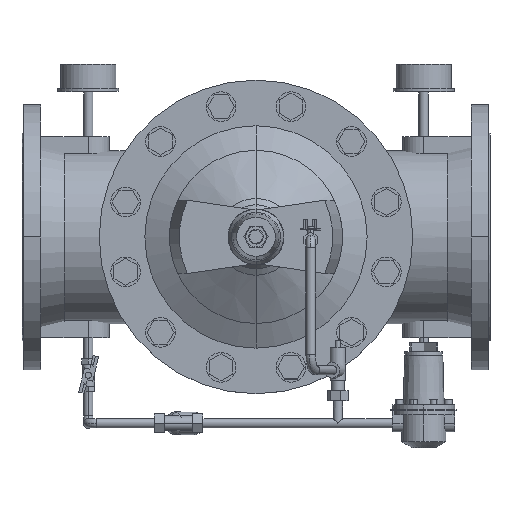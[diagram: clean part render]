
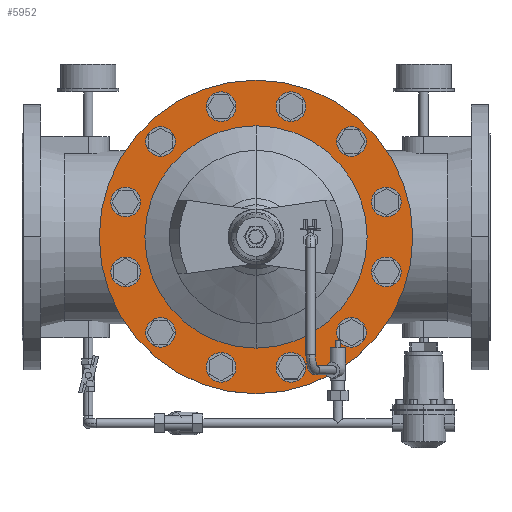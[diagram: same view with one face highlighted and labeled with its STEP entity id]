
A CAD part, top view. The second image highlights one B-rep face of the part: STEP entity #5952.
In plain terms, the highlighted planar face has unit normal (0, 0, 1).
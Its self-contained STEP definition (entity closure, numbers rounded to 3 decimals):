
#5952=ADVANCED_FACE('',(#10755,#10756),#10757,.T.);
#10755=FACE_BOUND('',#15854,.T.);
#10756=FACE_OUTER_BOUND('',#15855,.T.);
#10757=PLANE('',#15856);
#15854=EDGE_LOOP('',(#26587,#26588));
#15855=EDGE_LOOP('',(#26589,#26590));
#15856=AXIS2_PLACEMENT_3D('',#26591,#26592,#26593);
#26587=ORIENTED_EDGE('',*,*,#28880,.F.);
#26588=ORIENTED_EDGE('',*,*,#29024,.F.);
#26589=ORIENTED_EDGE('',*,*,#28527,.T.);
#26590=ORIENTED_EDGE('',*,*,#29813,.T.);
#26591=CARTESIAN_POINT('',(300.0,171.75,181.0));
#26592=DIRECTION('',(0.,0.,1.0));
#26593=DIRECTION('',(0.,1.0,0.));
#28527=EDGE_CURVE('',#33859,#33863,#33865,.T.);
#28880=EDGE_CURVE('',#34404,#34406,#34407,.T.);
#29024=EDGE_CURVE('',#34406,#34404,#34619,.T.);
#29813=EDGE_CURVE('',#33863,#33859,#35712,.T.);
#33859=VERTEX_POINT('',#41058);
#33863=VERTEX_POINT('',#41063);
#33865=CIRCLE('',#41066,201.0);
#34404=VERTEX_POINT('',#41925);
#34406=VERTEX_POINT('',#41928);
#34407=CIRCLE('',#41929,142.5);
#34619=CIRCLE('',#42301,142.5);
#35712=CIRCLE('',#43882,201.0);
#41058=CARTESIAN_POINT('',(300.0,201.0,181.0));
#41063=CARTESIAN_POINT('',(300.0,-201.0,181.0));
#41066=AXIS2_PLACEMENT_3D('',#47973,#47974,#47975);
#41925=CARTESIAN_POINT('',(300.0,142.5,181.0));
#41928=CARTESIAN_POINT('',(300.0,-142.5,181.0));
#41929=AXIS2_PLACEMENT_3D('',#48394,#48395,#48396);
#42301=AXIS2_PLACEMENT_3D('',#48532,#48533,#48534);
#43882=AXIS2_PLACEMENT_3D('',#49412,#49413,#49414);
#47973=CARTESIAN_POINT('',(300.0,0.0,181.0));
#47974=DIRECTION('',(0.,0.,1.0));
#47975=DIRECTION('',(0.,1.0,0.));
#48394=CARTESIAN_POINT('',(300.0,0.0,181.0));
#48395=DIRECTION('',(0.,0.,1.0));
#48396=DIRECTION('',(0.,1.0,0.));
#48532=CARTESIAN_POINT('',(300.0,0.0,181.0));
#48533=DIRECTION('',(0.,0.,1.0));
#48534=DIRECTION('',(0.,1.0,0.));
#49412=CARTESIAN_POINT('',(300.0,0.0,181.0));
#49413=DIRECTION('',(0.,0.,1.0));
#49414=DIRECTION('',(0.,1.0,0.));
